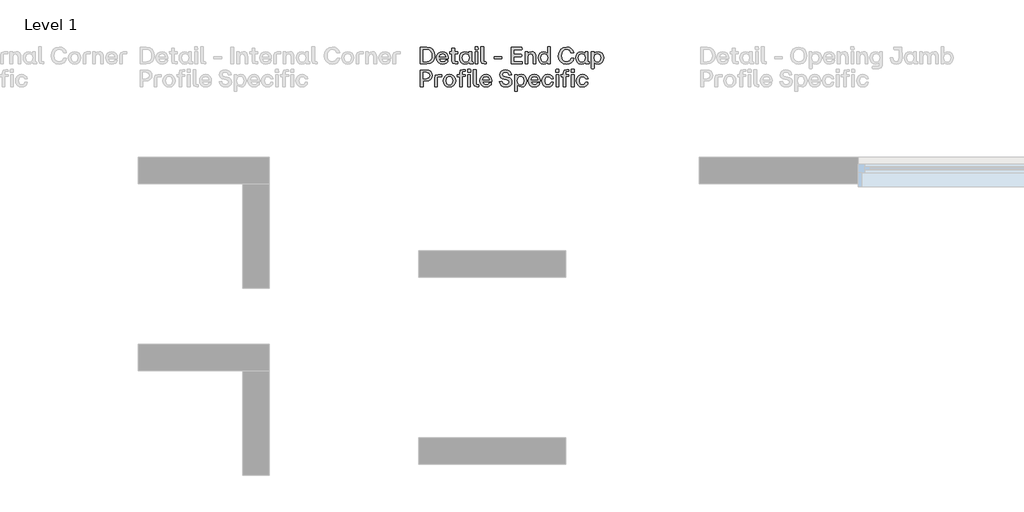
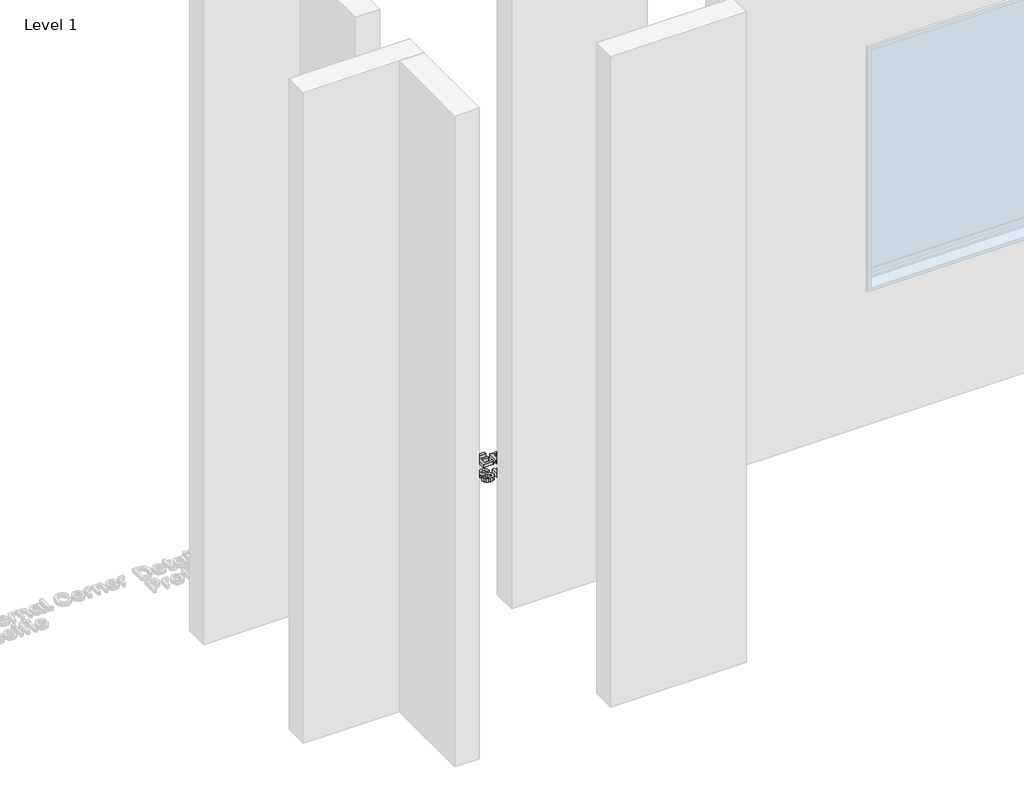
# One storey, part 59 of 64: 1 proxy.
"""IFC4 building model written with IfcOpenShell, lengths in millimetres."""

import ifcopenshell
import ifcopenshell.guid

model = None  # the IFC model being written
_history = None  # IfcOwnerHistory: only IFC2X3 demands one
_inside = {}  # id of a spatial element -> (the spatial element, [elements in it])
_under = {}  # id of a project, library or spatial element -> (it, [spatial elements below it])
_declared = {}  # id of a project -> (the project, [libraries it declares])
_typed = {}  # id of a type object -> (the type object, [elements of that type])
_made_of = {}  # id of a material, layer set ... -> (it, [elements and type objects made of it])


def new_model(schema):
    """Start an empty IFC model of exactly this schema.

    Asked for "IFC4X3", IfcOpenShell would pick the latest addendum, in which some entities
    have other attributes; the version numbers below select the first issue.
    IFC2X3 requires an IfcOwnerHistory on every rooted entity: one is made here for all.
    """
    global model, _history
    if schema == "IFC4X3":
        model = ifcopenshell.file(schema_version=(4, 3, 0, 0))
    else:
        model = ifcopenshell.file(schema=schema)
    _inside.clear()
    _under.clear()
    _declared.clear()
    _typed.clear()
    _made_of.clear()
    _history = None
    if model.schema == "IFC2X3":
        org = make("IfcOrganization", Name="unknown")
        user = make(
            "IfcPersonAndOrganization",
            ThePerson=make("IfcPerson", FamilyName="unknown"),
            TheOrganization=org,
        )
        app = make(
            "IfcApplication",
            ApplicationDeveloper=org,
            Version="unknown",
            ApplicationFullName="unknown",
            ApplicationIdentifier="unknown",
        )
        _history = make(
            "IfcOwnerHistory",
            OwningUser=user,
            OwningApplication=app,
            ChangeAction="ADDED",
            CreationDate=0,
        )
    return model


def make(cls, **values):
    """One entity of the class cls with the attributes given. An attribute that is None is left unset."""
    return model.create_entity(
        cls, **{name: value for name, value in values.items() if value is not None}
    )


def rooted(cls, **values):
    """An entity with a GlobalId (a new one), such as an element, a storey or a relation."""
    return make(cls, GlobalId=ifcopenshell.guid.new(), OwnerHistory=_history, **values)


def si_unit(unit_type, name, prefix=None):
    """IfcSIUnit, for example si_unit("LENGTHUNIT", "METRE", prefix="MILLI")."""
    return make("IfcSIUnit", UnitType=unit_type, Prefix=prefix, Name=name)


def assignment(units):
    """IfcUnitAssignment: the units of a project."""
    return None if units is None else make("IfcUnitAssignment", Units=units)


def point(xyz):
    """IfcCartesianPoint."""
    return None if xyz is None else make("IfcCartesianPoint", Coordinates=xyz)


def direction(xyz):
    """IfcDirection."""
    return None if xyz is None else make("IfcDirection", DirectionRatios=xyz)


def frame(location, z_axis=None, x_axis=None):
    """IfcAxis2Placement3D, a coordinate frame: its origin and axes. An axis left out is left unset."""
    return make(
        "IfcAxis2Placement3D",
        Location=point(location),
        Axis=direction(z_axis),
        RefDirection=direction(x_axis),
    )


def origin():
    """The frame at (0, 0, 0) with its axes left unset."""
    return frame((0.0, 0.0, 0.0))


def origin_with_axes():
    """The frame at (0, 0, 0) with the z axis (0, 0, 1) and the x axis (1, 0, 0) written out."""
    return frame((0.0, 0.0, 0.0), z_axis=(0.0, 0.0, 1.0), x_axis=(1.0, 0.0, 0.0))


def place(relative_to, where):
    """IfcLocalPlacement: puts the frame where relative to a parent placement (None: the world)."""
    return make(
        "IfcLocalPlacement", PlacementRelTo=relative_to, RelativePlacement=where
    )


def context(
    kind, dimensions, precision=None, world=None, true_north=None, identifier=None
):
    """IfcGeometricRepresentationContext, for example the 3D "Model" context."""
    return make(
        "IfcGeometricRepresentationContext",
        ContextIdentifier=identifier,
        ContextType=kind,
        CoordinateSpaceDimension=dimensions,
        Precision=precision,
        WorldCoordinateSystem=world,
        TrueNorth=true_north,
    )


def project(units=None, contexts=None):
    """IfcProject with its units and contexts."""
    return rooted(
        "IfcProject",
        Name="project",
        RepresentationContexts=contexts,
        UnitsInContext=assignment(units),
    )


def spatial(cls, under=None, at=None, **own):
    """A site, building, storey or space (cls), placed at a placement, below another one or the project."""
    s = rooted(cls, ObjectPlacement=at, **own)
    if under is not None:
        _under.setdefault(under.id(), (under, []))[1].append(s)
    return s


def polyline(points):
    """IfcPolyline through the points."""
    return make("IfcPolyline", Points=[point(p) for p in points])


def outline(outer, holes=None, kind="AREA"):
    """IfcArbitraryClosedProfileDef: a profile drawn as a closed curve; with holes, ...WithVoids."""
    if holes is None:
        return make("IfcArbitraryClosedProfileDef", ProfileType=kind, OuterCurve=outer)
    return make(
        "IfcArbitraryProfileDefWithVoids",
        ProfileType=kind,
        OuterCurve=outer,
        InnerCurves=holes,
    )


def extrude(swept, where, along, depth):
    """IfcExtrudedAreaSolid: the profile swept, set in the frame where, extruded along a direction by depth."""
    return make(
        "IfcExtrudedAreaSolid",
        SweptArea=swept,
        Position=where,
        ExtrudedDirection=direction(along),
        Depth=depth,
    )


def shape(context_of_items, identifier, shape_type, items):
    """IfcShapeRepresentation: the items that make up one representation, for example the "Body"."""
    return make(
        "IfcShapeRepresentation",
        ContextOfItems=context_of_items,
        RepresentationIdentifier=identifier,
        RepresentationType=shape_type,
        Items=items,
    )


def made_of(thing, what):
    """Note that an element or type object is made of a material, layer set ...; save() writes the relation."""
    if what is not None:
        _made_of.setdefault(what.id(), (what, []))[1].append(thing)
    return thing


def element(
    cls,
    number,
    at=None,
    inside=None,
    cuts=None,
    type_object=None,
    material=None,
    context=None,
    identifier="Body",
    shape_type=None,
    held_by="IfcProductDefinitionShape",
    body=None,
    shapes=None,
    **own,
):
    """One element of the class cls, such as IfcWall. Its Tag is "e" and its number.

    at: its placement. inside: the storey or other place that contains it. cuts: it is an
    opening in that element (IfcRelVoidsElement). A single representation is given by context,
    identifier, shape_type and body (its items); several are given by shapes. held_by: the class
    of the entity that holds the representations. save() writes the other relations.
    """
    e = rooted(cls, Tag="e%d" % number, ObjectPlacement=at, **own)
    if body is not None:
        shapes = [shape(context, identifier, shape_type, body)]
    if shapes is not None:
        e.Representation = make(held_by, Representations=shapes)
    if inside is not None:
        _inside.setdefault(inside.id(), (inside, []))[1].append(e)
    if cuts is not None:
        rooted(
            "IfcRelVoidsElement", RelatingBuildingElement=cuts, RelatedOpeningElement=e
        )
    if type_object is not None:
        _typed.setdefault(type_object.id(), (type_object, []))[1].append(e)
    return made_of(e, material)


def aggregate(whole, parts):
    """IfcRelAggregates: a whole, such as a stair, and the parts it consists of."""
    return rooted("IfcRelAggregates", RelatingObject=whole, RelatedObjects=parts)


def save(model, path):
    """Write the relations noted so far, then the file.

    IfcRelAggregates (storeys below a building ...), IfcRelContainedInSpatialStructure (elements
    in a storey), IfcRelDefinesByType, IfcRelAssociatesMaterial and IfcRelDeclares: one each for
    every whole, place, type object, material and project.
    """
    for whole, parts in _under.values():
        aggregate(whole, parts)
    for where, things in _inside.values():
        rooted(
            "IfcRelContainedInSpatialStructure",
            RelatedElements=things,
            RelatingStructure=where,
        )
    for kind, things in _typed.values():
        rooted("IfcRelDefinesByType", RelatedObjects=things, RelatingType=kind)
    for what, things in _made_of.values():
        rooted("IfcRelAssociatesMaterial", RelatedObjects=things, RelatingMaterial=what)
    for by, libraries in _declared.values():
        rooted("IfcRelDeclares", RelatingContext=by, RelatedDefinitions=libraries)
    model.write(path)


model = new_model("IFC4")

# Units and contexts
model_context = context("Model", 3, world=origin())
ifc_project = project(units=[si_unit("LENGTHUNIT", "METRE", prefix="MILLI")], contexts=[model_context])

# Site, building, storey
site = spatial("IfcSite", under=ifc_project)
building = spatial("IfcBuilding", under=site)
storey = spatial("IfcBuildingStorey", under=building, Name="Level 1", Elevation=0.0)

# Proxy
placement = place(None, origin())
element("IfcBuildingElementProxy", 1, Name="90mm", ObjectType="90mm", at=placement, inside=storey, context=model_context, shape_type="SweptSolid", body=[
    extrude(outline(polyline([(12110.2926176, 6000.0), (12108.9872124, 6001.2551973), (12108.9872124, 6088.6922388), (12142.5511873, 6089.997644), (12160.5475781, 6086.9945845), (12174.1193986, 6077.9854062), (12182.63905, 6063.6416394), (12185.4789338, 6044.6348148), (12182.648464, 6025.7974418), (12174.1570545, 6011.7109905), (12160.594648, 6002.9277476), (12142.5511873, 6000.0), (12110.2926176, 6000.0)]), holes=[polyline([(12123.7985402, 6012.6272845), (12141.6725492, 6012.6272845), (12153.8950326, 6014.688946), (12162.9481429, 6020.8739305), (12168.5494607, 6030.9374746), (12170.4165666, 6044.6348148), (12168.5431847, 6058.4890546), (12162.923039, 6068.8224661), (12153.8636527, 6075.2522141), (12141.6725492, 6077.3954634), (12123.7985402, 6077.3954634), (12123.7985402, 6012.6272845)])]), origin_with_axes(), (0.0, 0.0, 1.0), 20.0),
    extrude(outline(polyline([(12227.628458, 5999.2468816), (12214.0409476, 6001.5156507), (12203.5035666, 6008.3219579), (12196.7443293, 6018.9377888), (12194.4912502, 6032.6351289), (12196.7349153, 6046.4987827), (12203.4659107, 6057.2118914), (12213.9938777, 6064.0652685), (12227.628458, 6066.3497275), (12240.1584647, 6064.0966484), (12249.7324819, 6057.3374111), (12255.8044987, 6046.6870623), (12257.8285043, 6032.7606486), (12257.8285043, 6029.3214081), (12256.573307, 6027.990899), (12209.1268503, 6027.990899), (12214.6497183, 6015.3134066), (12227.628458, 6010.7946965), (12238.0465953, 6013.0917075), (12243.4439436, 6019.5308695), (12244.8246606, 6020.5852352), (12256.1967478, 6020.5852352), (12254.1633282, 6011.2685335), (12247.8120301, 6004.8074055), (12238.8248176, 6000.6370126), (12227.628458, 5999.2468816)]), holes=[polyline([(12209.2523701, 6038.4090363), (12243.8205028, 6038.4090363), (12239.0633051, 6050.3710663), (12227.628458, 6054.7266008), (12214.8631018, 6050.5844498), (12209.2523701, 6038.4090363)])]), origin_with_axes(), (0.0, 0.0, 1.0), 20.0),
    extrude(outline(polyline([(12296.6140998, 6000.0), (12282.731618, 6004.7697496), (12277.9618684, 6018.6522314), (12277.9618684, 6054.2245219), (12266.7906127, 6054.2245219), (12265.4852076, 6064.2661), (12266.7906127, 6065.5212973), (12277.9618684, 6065.5212973), (12277.9618684, 6083.54593), (12279.2170657, 6084.8513352), (12290.9657121, 6084.8513352), (12292.2209094, 6083.54593), (12292.2209094, 6065.5212973), (12308.0363949, 6065.5212973), (12309.3418001, 6064.2661), (12309.3418001, 6055.555031), (12292.2209094, 6054.2245219), (12292.2209094, 6011.2967754), (12308.0363949, 6011.2967754), (12309.3418001, 6010.0415781), (12309.3418001, 6001.2551973), (12308.0363949, 6000.0), (12296.6140998, 6000.0)])), origin_with_axes(), (0.0, 0.0, 1.0), 20.0),
    extrude(outline(polyline([(12347.2738615, 5999.2468816), (12335.3243835, 6001.5156507), (12326.0861316, 6008.3219579), (12320.1741525, 6018.9377888), (12318.2034928, 6032.6351289), (12320.1741525, 6046.4674028), (12326.0861316, 6057.1867875), (12335.3243835, 6064.0589925), (12347.2738615, 6066.3497275), (12359.1856835, 6063.4627738), (12368.160344, 6055.555031), (12368.7377347, 6064.2661), (12369.992932, 6065.5212973), (12381.6662665, 6065.5212973), (12382.9716717, 6064.2661), (12382.9716717, 6011.2967754), (12390.0760882, 6011.2967754), (12391.3312855, 6010.0415781), (12391.3312855, 6001.2551973), (12390.0760882, 6000.0), (12380.536589, 6000.0), (12372.1581473, 6002.3534949), (12369.3653333, 6009.4139795), (12359.7254183, 6002.1338354), (12347.2738615, 5999.2468816)]), holes=[polyline([(12332.7135732, 6032.6351289), (12337.6716024, 6016.6313638), (12343.5365116, 6012.2538633), (12351.2151809, 6010.7946965), (12358.7714684, 6012.2475873), (12364.470064, 6016.6062598), (12369.2398136, 6032.6351289), (12364.4324081, 6048.8271737), (12358.7243985, 6053.251744), (12351.2151809, 6054.7266008), (12343.5365116, 6053.251744), (12337.6716024, 6048.8271737), (12332.7135732, 6032.6351289)])]), origin_with_axes(), (0.0, 0.0, 1.0), 20.0),
    extrude(outline(polyline([(12403.6824266, 6000.0), (12402.3770214, 6001.2551973), (12402.3770214, 6064.2661), (12403.6824266, 6065.5212973), (12415.3557612, 6065.5212973), (12416.6109584, 6064.2661), (12416.6109584, 6001.2551973), (12415.3557612, 6000.0), (12403.6824266, 6000.0)])), origin_with_axes(), (0.0, 0.0, 1.0), 20.0),
    extrude(outline(polyline([(12401.3728636, 6078.1485818), (12401.3728636, 6092.0059596), (12402.6280609, 6093.3364687), (12416.4854387, 6093.3364687), (12417.8159478, 6078.1485818), (12416.4854387, 6076.8933845), (12402.6280609, 6076.8933845), (12401.3728636, 6078.1485818)])), origin_with_axes(), (0.0, 0.0, 1.0), 20.0),
    extrude(outline(polyline([(12451.5305464, 6000.0), (12437.6731686, 6004.7697496), (12432.903419, 6018.6522314), (12432.903419, 6091.2528413), (12445.8821587, 6092.5833504), (12447.137356, 6091.2528413), (12447.137356, 6011.2967754), (12459.1370418, 6011.2967754), (12460.3922391, 6010.0415781), (12460.3922391, 6001.2551973), (12459.1370418, 6000.0), (12451.5305464, 6000.0)])), origin_with_axes(), (0.0, 0.0, 1.0), 20.0),
    extrude(outline(polyline([(12505.1776775, 6027.112261), (12503.9224803, 6028.4427701), (12503.9224803, 6038.4090363), (12505.1776775, 6039.7395454), (12543.7875455, 6039.7395454), (12545.0427427, 6038.4090363), (12545.0427427, 6028.4427701), (12543.7875455, 6027.112261), (12505.1776775, 6027.112261)])), origin_with_axes(), (0.0, 0.0, 1.0), 20.0),
    extrude(outline(polyline([(12595.5016728, 6000.0), (12594.1962677, 6001.2551973), (12594.1962677, 6088.6922388), (12652.3119011, 6089.997644), (12653.6173063, 6078.6506607), (12652.3119011, 6077.3954634), (12609.0075954, 6077.3954634), (12609.0075954, 6051.5383998), (12649.7261947, 6051.5383998), (12651.0567038, 6050.2832025), (12651.0567038, 6040.2416244), (12649.7261947, 6038.9864271), (12609.0075954, 6038.9864271), (12609.0075954, 6012.6272845), (12653.6173063, 6012.6272845), (12654.8725035, 6011.2967754), (12654.8725035, 6001.2551973), (12653.6173063, 6000.0), (12595.5016728, 6000.0)])), origin_with_axes(), (0.0, 0.0, 1.0), 20.0),
    extrude(outline(polyline([(12670.3867417, 6000.0), (12669.0813366, 6001.2551973), (12669.0813366, 6064.2661), (12670.3867417, 6065.5212973), (12681.4324777, 6065.5212973), (12682.6876749, 6064.2661), (12682.6876749, 6055.555031), (12691.9824107, 6063.6510534), (12703.9005087, 6066.3497275), (12713.8259811, 6064.4669316), (12721.1092633, 6058.8185439), (12725.5809035, 6049.5426361), (12727.0714503, 6036.7772799), (12727.0714503, 6001.2551973), (12725.7409412, 6000.0), (12714.0676066, 6000.0), (12712.7622014, 6001.2551973), (12712.7622014, 6036.7772799), (12709.2476491, 6050.057267), (12698.1391533, 6054.2245219), (12686.9302417, 6049.9945071), (12683.3152736, 6036.7772799), (12683.3152736, 6001.2551973), (12682.0600763, 6000.0), (12670.3867417, 6000.0)])), origin_with_axes(), (0.0, 0.0, 1.0), 20.0),
    extrude(outline(polyline([(12768.2168167, 5999.2468816), (12756.2673387, 6001.5156507), (12747.0290868, 6008.3219579), (12741.1171077, 6018.9377888), (12739.146448, 6032.6351289), (12741.1171077, 6046.4674028), (12747.0290868, 6057.1867875), (12756.2673387, 6064.0589925), (12768.2168167, 6066.3497275), (12780.1286387, 6063.4627738), (12789.1032992, 6055.555031), (12789.6806899, 6091.2528413), (12790.9358872, 6092.5833504), (12802.6092218, 6092.5833504), (12803.9146269, 6001.2551973), (12802.6092218, 6000.0), (12791.5634858, 6000.0), (12790.3082886, 6001.2551973), (12790.3082886, 6009.9160584), (12780.6683735, 6002.1338354), (12768.2168167, 5999.2468816)]), holes=[polyline([(12753.6565284, 6032.6351289), (12758.6145576, 6016.6313638), (12764.4794668, 6012.2538633), (12772.1581361, 6010.7946965), (12779.7144236, 6012.2475873), (12785.4130192, 6016.6062598), (12790.1827688, 6032.6351289), (12785.3753633, 6048.8271737), (12779.6673537, 6053.251744), (12772.1581361, 6054.7266008), (12764.4794668, 6053.251744), (12758.6145576, 6048.8271737), (12753.6565284, 6032.6351289)])]), origin_with_axes(), (0.0, 0.0, 1.0), 20.0),
    extrude(outline(polyline([(12891.100629, 5999.2468816), (12873.0885483, 6002.3315289), (12859.2186185, 6011.5854708), (12850.3694777, 6026.1112411), (12847.4197642, 6045.011374), (12850.3945817, 6063.5945695), (12859.3190343, 6078.1736857), (12873.214068, 6087.6064932), (12891.100629, 6090.7507624), (12905.0490087, 6088.6734109), (12916.6187895, 6082.4413564), (12924.9376093, 6072.7575095), (12929.1331062, 6060.3247806), (12915.9535349, 6058.8687518), (12914.52261, 6059.9984293), (12906.6587992, 6073.6110437), (12891.100629, 6078.1485818), (12879.176255, 6075.9268826), (12870.1137307, 6069.2617852), (12864.3900312, 6058.755784), (12862.4821314, 6045.011374), (12864.3806172, 6031.0535804), (12870.0760748, 6020.5601312), (12879.1291851, 6013.9891735), (12891.100629, 6011.7988543), (12906.9663225, 6016.2736326), (12915.4012481, 6029.6979673), (12916.832173, 6030.8778528), (12928.756547, 6030.8778528), (12925.5840359, 6017.1208907), (12917.1208684, 6007.5311836), (12905.362808, 6001.3179571), (12891.100629, 5999.2468816)])), origin_with_axes(), (0.0, 0.0, 1.0), 20.0),
    extrude(outline(polyline([(12969.0483793, 5999.2468816), (12957.0989013, 6001.5156507), (12947.8606494, 6008.3219579), (12941.9486703, 6018.9377888), (12939.9780106, 6032.6351289), (12941.9486703, 6046.4674028), (12947.8606494, 6057.1867875), (12957.0989013, 6064.0589925), (12969.0483793, 6066.3497275), (12980.9602013, 6063.4627738), (12989.9348618, 6055.555031), (12990.5122525, 6064.2661), (12991.7674498, 6065.5212973), (13003.4407844, 6065.5212973), (13004.7461895, 6064.2661), (13004.7461895, 6011.2967754), (13011.850606, 6011.2967754), (13013.1058033, 6010.0415781), (13013.1058033, 6001.2551973), (13011.850606, 6000.0), (13002.3111068, 6000.0), (12993.9326651, 6002.3534949), (12991.1398512, 6009.4139795), (12981.4999362, 6002.1338354), (12969.0483793, 5999.2468816)]), holes=[polyline([(12954.488091, 6032.6351289), (12959.4461202, 6016.6313638), (12965.3110294, 6012.2538633), (12972.9896987, 6010.7946965), (12980.5459862, 6012.2475873), (12986.2445818, 6016.6062598), (12991.0143314, 6032.6351289), (12986.2069259, 6048.8271737), (12980.4989163, 6053.251744), (12972.9896987, 6054.7266008), (12965.3110294, 6053.251744), (12959.4461202, 6048.8271737), (12954.488091, 6032.6351289)])]), origin_with_axes(), (0.0, 0.0, 1.0), 20.0),
    extrude(outline(polyline([(13025.4569444, 5975.5989651), (13024.1515393, 5976.8541624), (13024.1515393, 6064.2661), (13025.4569444, 6065.5212973), (13036.5026804, 6065.5212973), (13037.7578776, 6064.2661), (13037.7578776, 6055.6805507), (13047.3977926, 6063.4627738), (13059.8493495, 6066.3497275), (13071.7988275, 6064.0746824), (13081.0370794, 6057.2495473), (13086.9490585, 6046.6086125), (13088.9197182, 6032.8861684), (13086.9490585, 6019.0789984), (13081.0370794, 6008.3847177), (13071.7988275, 6001.5313407), (13059.8493495, 5999.2468816), (13047.9375275, 6002.1338354), (13038.962867, 6010.0415781), (13038.3854763, 5976.8541624), (13037.130279, 5975.5989651), (13025.4569444, 5975.5989651)]), holes=[polyline([(13037.8833974, 6032.8861684), (13042.6908029, 6016.6941236), (13048.3988125, 6012.2695533), (13055.9080301, 6010.7946965), (13063.5866994, 6012.2695533), (13069.4516086, 6016.6941236), (13074.4096378, 6032.8861684), (13069.4516086, 6048.8899335), (13063.5866994, 6053.267434), (13055.9080301, 6054.7266008), (13048.3517426, 6053.276848), (13042.653147, 6048.9275894), (13037.8833974, 6032.8861684)])]), origin_with_axes(), (0.0, 0.0, 1.0), 20.0),
    extrude(outline(polyline([(12110.2926176, 5877.86695), (12108.9872124, 5879.1221472), (12108.9872124, 5966.5591888), (12140.1161046, 5967.864594), (12154.0174144, 5965.9661081), (12164.3414119, 5960.2706505), (12170.7429179, 5951.0763305), (12172.8767533, 5938.6812575), (12170.7429179, 5926.2861845), (12164.3414119, 5917.0918646), (12154.0174144, 5911.396407), (12140.1161046, 5909.4979211), (12123.7985402, 5909.4979211), (12123.7985402, 5879.1221472), (12122.4680311, 5877.86695), (12110.2926176, 5877.86695)]), holes=[polyline([(12123.7985402, 5922.1252056), (12140.1161046, 5922.1252056), (12153.5969233, 5926.2045967), (12157.9901137, 5938.6938095), (12153.5969233, 5951.1830223), (12140.1161046, 5955.2624134), (12123.7985402, 5955.2624134), (12123.7985402, 5922.1252056)])]), origin_with_axes(), (0.0, 0.0, 1.0), 20.0),
    extrude(outline(polyline([(12186.1065325, 5877.86695), (12184.8513352, 5879.1221472), (12184.8513352, 5924.8113277), (12189.6210848, 5938.6561536), (12203.4784626, 5943.3882473), (12221.7541348, 5943.3882473), (12223.0093321, 5942.13305), (12223.0093321, 5932.5935508), (12221.7541348, 5931.3383535), (12199.0852722, 5931.3383535), (12199.0852722, 5879.1221472), (12197.8300749, 5877.86695), (12186.1065325, 5877.86695)])), origin_with_axes(), (0.0, 0.0, 1.0), 20.0),
    extrude(outline(polyline([(12264.2049064, 5877.1138316), (12250.9782652, 5879.4202566), (12240.519334, 5886.3395315), (12233.7130268, 5896.9930183), (12231.4442577, 5910.5020789), (12233.7193028, 5924.0990033), (12240.5444379, 5934.8654578), (12251.0096451, 5941.8788726), (12264.2049064, 5944.2166775), (12277.5570673, 5941.8788726), (12288.0913103, 5934.8654578), (12294.9352734, 5924.0990033), (12297.2165945, 5910.5020789), (12294.9352734, 5896.9930183), (12288.0913103, 5886.3395315), (12277.5570673, 5879.4202566), (12264.2049064, 5877.1138316)]), holes=[polyline([(12245.9543381, 5910.5020789), (12250.8119515, 5894.4732098), (12256.588997, 5890.1145373), (12264.2049064, 5888.6616465), (12271.9024036, 5890.1208133), (12277.7735888, 5894.4983138), (12282.731618, 5910.5020789), (12277.7986928, 5926.6941236), (12271.9337835, 5931.118694), (12264.2049064, 5932.5935508), (12256.588997, 5931.118694), (12250.8119515, 5926.6941236), (12245.9543381, 5910.5020789)])]), origin_with_axes(), (0.0, 0.0, 1.0), 20.0),
    extrude(outline(polyline([(12362.3111247, 5879.1221472), (12362.3111247, 5942.13305), (12363.6416338, 5943.3882473), (12375.3149684, 5943.3882473), (12376.6203735, 5942.13305), (12376.6203735, 5879.1221472), (12375.3149684, 5877.86695), (12363.6416338, 5877.86695), (12362.3111247, 5879.1221472)])), origin_with_axes(), (0.0, 0.0, 1.0), 20.0),
    extrude(outline(polyline([(12319.3833782, 5877.86695), (12318.1281809, 5879.1221472), (12318.1281809, 5932.0914719), (12306.9569253, 5932.0914719), (12305.6515201, 5942.13305), (12306.9569253, 5943.3882473), (12318.1281809, 5943.3882473), (12318.1281809, 5951.798069), (12322.8979305, 5965.6805507), (12336.7804123, 5970.4503003), (12348.2027074, 5970.4503003), (12349.5081126, 5960.4087222), (12332.3872219, 5959.0782131), (12332.3872219, 5943.3882473), (12348.2027074, 5943.3882473), (12349.5081126, 5942.13305), (12349.5081126, 5933.421981), (12332.3872219, 5932.0914719), (12332.3872219, 5879.1221472), (12331.1320246, 5877.86695), (12319.3833782, 5877.86695)])), origin_with_axes(), (0.0, 0.0, 1.0), 20.0),
    extrude(outline(polyline([(12361.3069669, 5956.0155318), (12361.3069669, 5969.8729096), (12362.5621642, 5971.2034187), (12376.4948538, 5971.2034187), (12377.7500511, 5969.8729096), (12377.7500511, 5956.0155318), (12376.4948538, 5954.7603345), (12362.5621642, 5954.7603345), (12361.3069669, 5956.0155318)])), origin_with_axes(), (0.0, 0.0, 1.0), 20.0),
    extrude(outline(polyline([(12411.3642339, 5877.86695), (12397.506856, 5882.6366996), (12392.7371064, 5896.5191814), (12392.7371064, 5969.1197912), (12405.7158462, 5970.4503003), (12406.9710434, 5969.1197912), (12406.9710434, 5889.1637254), (12418.9707293, 5889.1637254), (12420.2259266, 5887.9085281), (12420.2259266, 5879.1221472), (12418.9707293, 5877.86695), (12411.3642339, 5877.86695)])), origin_with_axes(), (0.0, 0.0, 1.0), 20.0),
    extrude(outline(polyline([(12460.5930707, 5877.1138316), (12447.0055602, 5879.3826007), (12436.4681792, 5886.1889079), (12429.7089419, 5896.8047387), (12427.4558628, 5910.5020789), (12429.6995279, 5924.3657327), (12436.4305233, 5935.0788414), (12446.9584903, 5941.9322185), (12460.5930707, 5944.2166775), (12473.1230774, 5941.9635984), (12482.6970945, 5935.2043611), (12488.7691113, 5924.5540123), (12490.7931169, 5910.6275986), (12490.7931169, 5907.1883581), (12489.5379196, 5905.857849), (12442.0914629, 5905.857849), (12447.6143309, 5893.1803566), (12460.5930707, 5888.6616465), (12471.011208, 5890.9586575), (12476.4085562, 5897.3978194), (12477.7892732, 5898.4521852), (12489.1613604, 5898.4521852), (12487.1279409, 5889.1354834), (12480.7766427, 5882.6743555), (12471.7894303, 5878.5039626), (12460.5930707, 5877.1138316)]), holes=[polyline([(12442.2169827, 5916.2759863), (12476.7851154, 5916.2759863), (12472.0279177, 5928.2380163), (12460.5930707, 5932.5935508), (12447.8277145, 5928.4513998), (12442.2169827, 5916.2759863)])]), origin_with_axes(), (0.0, 0.0, 1.0), 20.0),
    extrude(outline(polyline([(12566.8831752, 5877.1138316), (12553.1136611, 5878.9652476), (12542.4319324, 5884.5194955), (12535.1706162, 5893.4941559), (12531.6623399, 5905.6068096), (12544.917223, 5907.0628384), (12546.2226282, 5905.857849), (12552.4107507, 5893.3058764), (12566.8831752, 5889.4147648), (12579.3974919, 5892.992077), (12583.8785461, 5902.9206874), (12580.7782089, 5911.1673335), (12570.3977275, 5915.2718285), (12558.5235614, 5917.355456), (12547.5186193, 5920.6095549), (12539.6579465, 5925.9284533), (12534.9415427, 5933.3121512), (12533.3694082, 5942.7606486), (12535.3839998, 5953.602415), (12541.4277746, 5961.7768872), (12551.0802416, 5966.9075061), (12563.9209096, 5968.6177123), (12576.6548859, 5966.8855401), (12586.5897722, 5961.6890234), (12593.3803895, 5953.3356856), (12596.6815583, 5942.13305), (12583.501987, 5940.7021251), (12582.0710621, 5942.13305), (12576.2594987, 5952.8398827), (12563.9209096, 5956.2665712), (12552.1597112, 5953.1285781), (12548.1054241, 5943.965638), (12551.7203922, 5935.267121), (12563.0422715, 5930.7107549), (12574.8411258, 5928.6522314), (12585.6609263, 5925.4828583), (12593.0163822, 5920.3930334), (12597.2338451, 5913.0626813), (12598.639666, 5903.1717269), (12596.5277966, 5892.2577866), (12590.1921884, 5884.0174166), (12580.1411963, 5878.8397279), (12566.8831752, 5877.1138316)])), origin_with_axes(), (0.0, 0.0, 1.0), 20.0),
    extrude(outline(polyline([(12614.1539042, 5853.4659151), (12612.848499, 5854.7211124), (12612.848499, 5942.13305), (12614.1539042, 5943.3882473), (12625.1996401, 5943.3882473), (12626.4548374, 5942.13305), (12626.4548374, 5933.5475007), (12636.0947524, 5941.3297238), (12648.5463093, 5944.2166775), (12660.4957873, 5941.9416324), (12669.7340392, 5935.1164973), (12675.6460183, 5924.4755625), (12677.616678, 5910.7531184), (12675.6460183, 5896.9459484), (12669.7340392, 5886.2516677), (12660.4957873, 5879.3982906), (12648.5463093, 5877.1138316), (12636.6344872, 5880.0007853), (12627.6598268, 5887.9085281), (12627.082436, 5854.7211124), (12625.8272388, 5853.4659151), (12614.1539042, 5853.4659151)]), holes=[polyline([(12626.5803571, 5910.7531184), (12631.3877627, 5894.5610736), (12637.0957722, 5890.1365033), (12644.6049899, 5888.6616465), (12652.2836592, 5890.1365033), (12658.1485684, 5894.5610736), (12663.1065976, 5910.7531184), (12658.1485684, 5926.7568835), (12652.2836592, 5931.134384), (12644.6049899, 5932.5935508), (12637.0487023, 5931.143798), (12631.3501068, 5926.7945394), (12626.5803571, 5910.7531184)])]), origin_with_axes(), (0.0, 0.0, 1.0), 20.0),
    extrude(outline(polyline([(12719.2641233, 5877.1138316), (12705.6766129, 5879.3826007), (12695.1392318, 5886.1889079), (12688.3799945, 5896.8047387), (12686.1269155, 5910.5020789), (12688.3705806, 5924.3657327), (12695.1015759, 5935.0788414), (12705.629543, 5941.9322185), (12719.2641233, 5944.2166775), (12731.79413, 5941.9635984), (12741.3681471, 5935.2043611), (12747.4401639, 5924.5540123), (12749.4641695, 5910.6275986), (12749.4641695, 5907.1883581), (12748.2089722, 5905.857849), (12700.7625156, 5905.857849), (12706.2853836, 5893.1803566), (12719.2641233, 5888.6616465), (12729.6822606, 5890.9586575), (12735.0796088, 5897.3978194), (12736.4603258, 5898.4521852), (12747.8324131, 5898.4521852), (12745.7989935, 5889.1354834), (12739.4476953, 5882.6743555), (12730.4604829, 5878.5039626), (12719.2641233, 5877.1138316)]), holes=[polyline([(12700.8880353, 5916.2759863), (12735.456168, 5916.2759863), (12730.6989704, 5928.2380163), (12719.2641233, 5932.5935508), (12706.4987671, 5928.4513998), (12700.8880353, 5916.2759863)])]), origin_with_axes(), (0.0, 0.0, 1.0), 20.0),
    extrude(outline(polyline([(12791.4379661, 5877.1138316), (12777.9445955, 5879.3826007), (12767.4385944, 5886.1889079), (12760.6793571, 5896.8047387), (12758.426278, 5910.5020789), (12760.710737, 5924.0990033), (12767.5641141, 5934.8654578), (12778.1014951, 5941.8788726), (12791.4379661, 5944.2166775), (12802.4209422, 5942.6696468), (12811.3704987, 5938.028555), (12817.6841409, 5930.8456886), (12820.7593742, 5921.6733346), (12808.1320897, 5920.2926176), (12801.7054797, 5929.8321168), (12791.4379661, 5932.5935508), (12783.680847, 5931.118694), (12777.8316277, 5926.6941236), (12772.9363584, 5910.5020789), (12777.8567317, 5894.4355539), (12783.7122269, 5890.1051233), (12791.4379661, 5888.6616465), (12802.019279, 5891.2975607), (12807.3789714, 5899.8329021), (12808.7596884, 5901.0378915), (12820.1317756, 5901.0378915), (12818.12346, 5890.5287524), (12811.7470579, 5883.3019541), (12802.7033616, 5878.6608623), (12791.4379661, 5877.1138316)])), origin_with_axes(), (0.0, 0.0, 1.0), 20.0),
    extrude(outline(polyline([(12835.8719493, 5877.86695), (12834.5665442, 5879.1221472), (12834.5665442, 5942.13305), (12835.8719493, 5943.3882473), (12847.5452839, 5943.3882473), (12848.8004812, 5942.13305), (12848.8004812, 5879.1221472), (12847.5452839, 5877.86695), (12835.8719493, 5877.86695)])), origin_with_axes(), (0.0, 0.0, 1.0), 20.0),
    extrude(outline(polyline([(12833.5623863, 5956.0155318), (12833.5623863, 5969.8729096), (12834.8175836, 5971.2034187), (12848.6749614, 5971.2034187), (12850.0054705, 5956.0155318), (12848.6749614, 5954.7603345), (12834.8175836, 5954.7603345), (12833.5623863, 5956.0155318)])), origin_with_axes(), (0.0, 0.0, 1.0), 20.0),
    extrude(outline(polyline([(12873.678491, 5877.86695), (12872.4232937, 5879.1221472), (12872.4232937, 5932.0914719), (12861.252038, 5932.0914719), (12859.9466329, 5942.13305), (12861.252038, 5943.3882473), (12872.4232937, 5943.3882473), (12872.4232937, 5951.798069), (12877.1930433, 5965.6805507), (12891.0755251, 5970.4503003), (12902.4978202, 5970.4503003), (12903.8032254, 5960.4087222), (12886.6823347, 5959.0782131), (12886.6823347, 5943.3882473), (12902.4978202, 5943.3882473), (12903.8032254, 5942.13305), (12903.8032254, 5933.421981), (12886.6823347, 5932.0914719), (12886.6823347, 5879.1221472), (12885.4271374, 5877.86695), (12873.678491, 5877.86695)])), origin_with_axes(), (0.0, 0.0, 1.0), 20.0),
    extrude(outline(polyline([(12915.6020797, 5956.0155318), (12915.6020797, 5969.8729096), (12916.8572769, 5971.2034187), (12930.7899666, 5971.2034187), (12932.0451639, 5969.8729096), (12932.0451639, 5956.0155318), (12930.7899666, 5954.7603345), (12916.8572769, 5954.7603345), (12915.6020797, 5956.0155318)])), origin_with_axes(), (0.0, 0.0, 1.0), 20.0),
    extrude(outline(polyline([(12916.6062375, 5879.1221472), (12916.6062375, 5942.13305), (12917.9367466, 5943.3882473), (12929.6100812, 5943.3882473), (12930.9154863, 5942.13305), (12930.9154863, 5879.1221472), (12929.6100812, 5877.86695), (12917.9367466, 5877.86695), (12916.6062375, 5879.1221472)])), origin_with_axes(), (0.0, 0.0, 1.0), 20.0),
    extrude(outline(polyline([(12976.2030037, 5877.1138316), (12962.7096331, 5879.3826007), (12952.203632, 5886.1889079), (12945.4443947, 5896.8047387), (12943.1913156, 5910.5020789), (12945.4757746, 5924.0990033), (12952.3291517, 5934.8654578), (12962.8665327, 5941.8788726), (12976.2030037, 5944.2166775), (12987.1859798, 5942.6696468), (12996.1355363, 5938.028555), (13002.4491785, 5930.8456886), (13005.5244118, 5921.6733346), (12992.8971273, 5920.2926176), (12986.4705173, 5929.8321168), (12976.2030037, 5932.5935508), (12968.4458846, 5931.118694), (12962.5966653, 5926.6941236), (12957.701396, 5910.5020789), (12962.6217693, 5894.4355539), (12968.4772645, 5890.1051233), (12976.2030037, 5888.6616465), (12986.7843166, 5891.2975607), (12992.144009, 5899.8329021), (12993.524726, 5901.0378915), (13004.8968132, 5901.0378915), (13002.8884976, 5890.5287524), (12996.5120955, 5883.3019541), (12987.4683992, 5878.6608623), (12976.2030037, 5877.1138316)])), origin_with_axes(), (0.0, 0.0, 1.0), 20.0),
])

save(model, "model.ifc")
